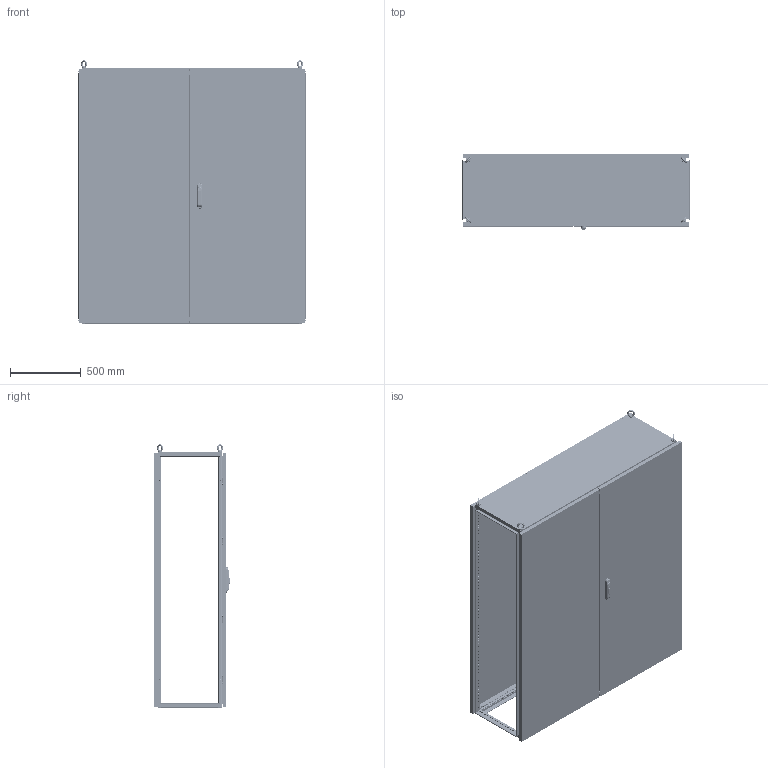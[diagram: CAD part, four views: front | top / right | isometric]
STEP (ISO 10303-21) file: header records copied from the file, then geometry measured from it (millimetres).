
FILE_DESCRIPTION(/* description */ ('Unknown'),/* implementation_level */ '2;1');
FILE_NAME(/* name */ 'MCA16018050',/* time_stamp */ '2025-03-07T11:44:27+01:00',/* author */ ('Unknown'),/* organization */ ('Unknown'),/* preprocessor_version */ 'ST-DEVELOPER v19.4',/* originating_system */ 'Solid Edge',/* authorisation */ 'Unknown');
FILE_SCHEMA (('CONFIG_CONTROL_DESIGN','PROCESS_PLANNING_SCHEMA'));
Products named in the file (65): MCA16018050; F0000000.08; AE00198.03; F000X001.22; F000X001.23; F000X001.24; F0000000.98; AE00417.01; AE00413.05; F000X000.71; F0000002.21; F0000002.17; AE01400.01; AE00222.15; AE00636.02; AE00316.01; F0000000.12; AE00992.31; AE00992.10_oa_0; AE00992.18; AE00992.77; AE00992.14; AE00989.13; AE00992.16; AE00315.01; M000X001.19; M0000000.29; AE00500.10; M000X000.41; M0000000.52; M0000000.44; M0000000.06; M000X000.35; M0000000.48; M0000000.49; AE00219.03; AE00715.01; M000X000.48; M0000000.55; C0000000.06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
Assembly tree (290 placements, depth 5):
  MCA16018050
    F0000000.08  x8
    AE00198.03  x16
    F000X001.22
      F000X001.23
        F000X001.24
          F0000000.98
        AE00417.01  x2
        AE00413.05  x4
        F000X000.71
          F0000002.21  x2
          F0000002.17  x2
          AE01400.01  x4
      AE00222.15  x8
      AE00636.02  x8
      AE00316.01  x8
      F0000000.12  x8
      AE00992.31
      AE00992.10_oa_0
      AE00992.18  x4
      AE00992.77  x2
      AE00992.14
      AE00989.13
      AE00992.16
      AE00315.01  x4
    M000X001.19
      M0000000.29  x4
      AE00500.10  x52
      M000X000.41  x2
        M0000000.52
        M0000000.44
        M0000000.06
        M000X000.35
          M0000000.48
          M0000000.49
    AE00219.03  x10
    AE00715.01  x4
    M000X000.48
      M0000000.55
    C0000000.06  x4
      C0000001.23
      C0000000.06_GOMMA
    F0000000.13  x8
    F000X001.17
      F000X001.18
        F0000000.96
      F0000000.07  x4
      AE00100.03_oa_1
      AE00100.03_oa_2
      AE00100.03_oa_3
      AE00100.03_oa_4
      AE00100.03_oa_5
      AE00100.03_oa_6
      AE00100.03_oa_7
      AE00100.03_oa_8
    AE00701.03  x8
    M0000000.37  x10
    F000X001.19
      F000X001.20
        F000X001.21
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Bounding box: 1600 x 538.2 x 1856.92 mm (x, y, z)
Volume: 29031931 mm3; surface area: 23070959.5 mm2
Topology: 320 solids, 320 shells, 13901 faces, 39638 edges, 26595 vertices
Faces by surface type: plane 9739, cylinder 3331, cone 688, torus 94, bspline 25, sphere 24
Full cylindrical faces by diameter (mm): 2 x8, 2.6 x8, 3 x1, 3.2 x2, 3.242 x2, 4 x34, 4.134 x9, 4.25 x372, 4.5 x1230, 4.8 x8, 4.917 x74, 4.918 x16, 5 x20, 5.5 x2, 6 x88, 6.1 x40, 6.2 x17, 6.5 x24, 6.8 x2, 7.5 x4, 7.8 x4, 8 x12, 8.3 x16, 8.5 x2, 9 x52, 10 x1, 10.106 x8, 10.5 x16, 11.8 x16, 12 x22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
Entity records: 109957 total; most frequent: CARTESIAN_POINT 19520, ORIENTED_EDGE 16930, DIRECTION 16836, EDGE_CURVE 8465, LINE 6620, VECTOR 6620, VERTEX_POINT 5992, FACE_BOUND 5501
